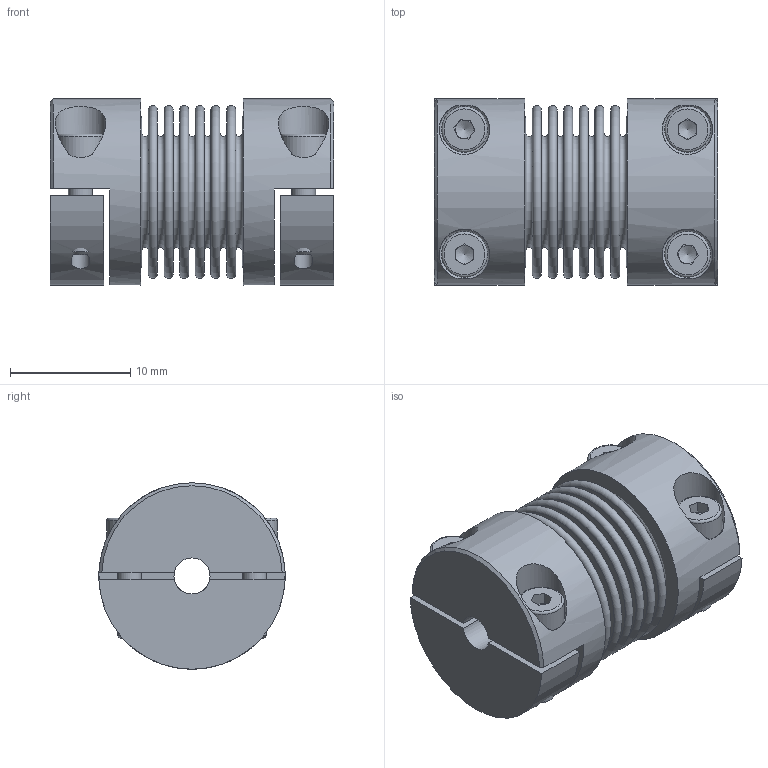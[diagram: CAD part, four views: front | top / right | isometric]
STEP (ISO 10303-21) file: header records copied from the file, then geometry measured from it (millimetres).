
FILE_DESCRIPTION( ( 'Unknown' ), '1' );
FILE_NAME( 'K:/Konstruktion/KB2H/KB2H-10-23.stp', 'Unknown', ( 'Unknown' ), ( 'Unknown' ), 'PSStep 16.0.42', 'Unknown', ' ' );
FILE_SCHEMA( ( 'AUTOMOTIVE_DESIGN { 1 0 10303 214 1 1 1 1 }' ) );
Length unit declared in the file: millimetre
Products named in the file (5): Assem1; KNH-5; Socket Head Cap Screw_DIN_DIN 912 M2 x 8 --- 8N_11; BK10_Standard_0
Assembly tree (9 placements, depth 2):
  Assem1
    KNH-5  x2
    KNH-5  x2
    Socket Head Cap Screw_DIN_DIN 912 M2 x 8 --- 8N_11  x4
    BK10_Standard_0
Bounding box: 23.55 x 15.5 x 15.5 mm (x, y, z)
Volume: 2683.9 mm3; surface area: 5974.3 mm2
Topology: 9 solids, 9 shells, 196 faces, 394 edges, 250 vertices
Faces by surface type: plane 112, torus 42, cylinder 32, cone 10
Full cylindrical faces by diameter (mm): 1.567 x4, 2 x4, 2.2 x4, 3 x2, 3.8 x4, 12.9 x2, 13.1 x2, 15.5 x2
Entity records: 3664 total; most frequent: CARTESIAN_POINT 593, DIRECTION 474, ORIENTED_EDGE 292, AXIS2_PLACEMENT_3D 217, EDGE_LOOP 199, FACE_OUTER_BOUND 155, EDGE_CURVE 146, VERTEX_POINT 136
